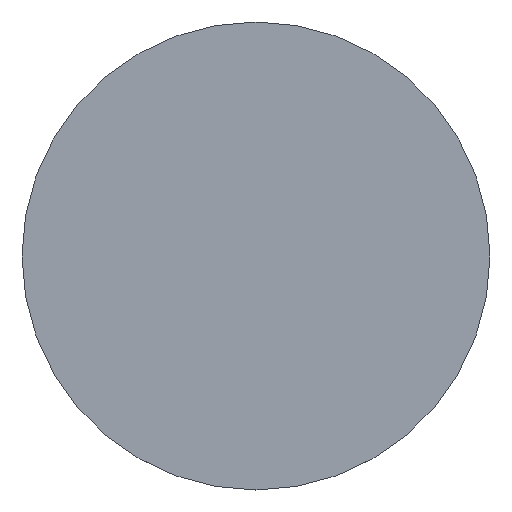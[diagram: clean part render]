
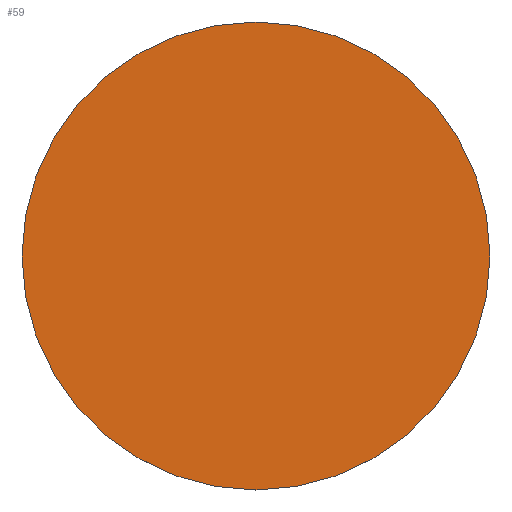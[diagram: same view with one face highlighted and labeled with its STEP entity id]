
A CAD part, top view. The second image highlights one B-rep face of the part: STEP entity #59.
In plain terms, the highlighted planar face has unit normal (0, 0, 1).
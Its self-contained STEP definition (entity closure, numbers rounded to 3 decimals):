
#24 = VERTEX_POINT('',#25);
#25 = CARTESIAN_POINT('',(28.,15.,24.));
#31 = EDGE_CURVE('',#24,#24,#32,.T.);
#32 = CIRCLE('',#33,13.);
#33 = AXIS2_PLACEMENT_3D('',#34,#35,#36);
#34 = CARTESIAN_POINT('',(15.,15.,24.));
#35 = DIRECTION('',(0.,0.,1.));
#36 = DIRECTION('',(1.,0.,0.));
#59 = ADVANCED_FACE('',(#60),#63,.T.);
#60 = FACE_BOUND('',#61,.F.);
#61 = EDGE_LOOP('',(#62));
#62 = ORIENTED_EDGE('',*,*,#31,.F.);
#63 = PLANE('',#64);
#64 = AXIS2_PLACEMENT_3D('',#65,#66,#67);
#65 = CARTESIAN_POINT('',(15.,15.,24.));
#66 = DIRECTION('',(0.,0.,1.));
#67 = DIRECTION('',(1.,0.,0.));
